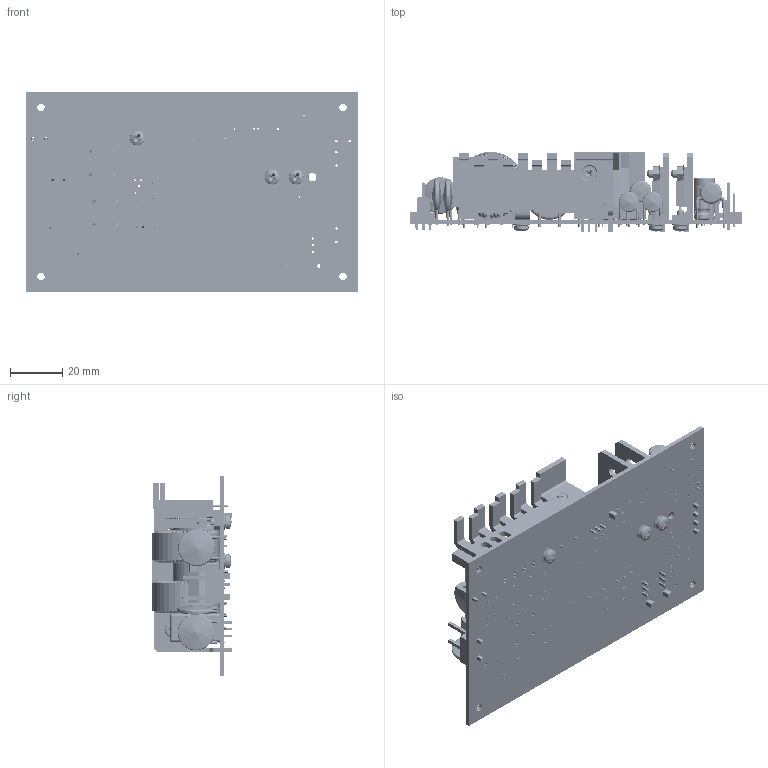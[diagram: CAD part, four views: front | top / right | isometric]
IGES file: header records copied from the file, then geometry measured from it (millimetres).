
Start section: SolidWorks IGES file using analytic representation for surfaces
Global section: file name: C:\Documents and Settings\behzar\Desktop\BEHZAR\PROJECTS\CURRENT-2010\SW-MODELS\WORKING\CLC125US12-48(3X5).IGS; native system: SolidWorks 2010; preprocessor: SolidWorks 2010; author: BEHZAR; date: 100617.145555; units: inch
Bounding box: 127.01 x 30.74 x 76.2 mm (x, y, z)
Surface area: 63209.2 mm2 (no closed solid volume)
Topology: 0 solids, 0 shells, 4524 faces, 60374 edges, 60318 vertices
Faces by surface type: bspline 2604, revolution 1920
